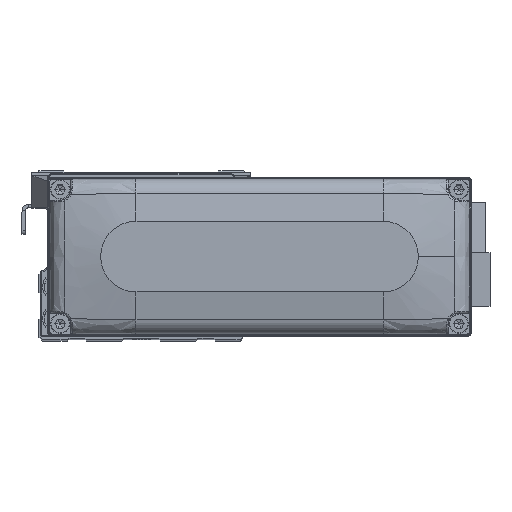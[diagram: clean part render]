
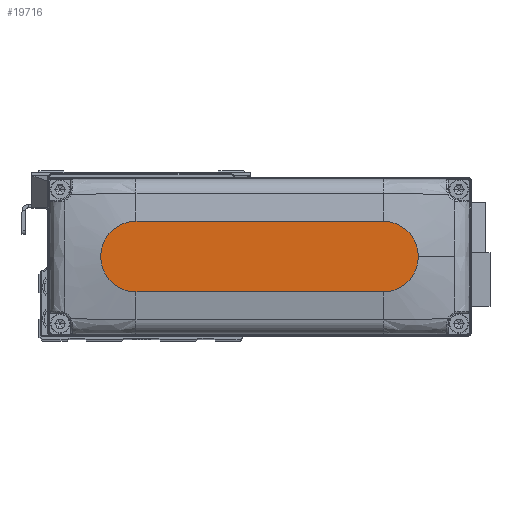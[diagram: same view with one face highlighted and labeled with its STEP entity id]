
A CAD part, top view. The second image highlights one B-rep face of the part: STEP entity #19716.
In plain terms, the highlighted planar face has unit normal (0, 0, 1).
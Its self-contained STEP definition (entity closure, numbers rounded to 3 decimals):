
#1108 = DIRECTION ( 'NONE',  ( 1., 0., 0. ) ) ;
#2077 = ORIENTED_EDGE ( 'NONE', *, *, #29608, .T. ) ;
#2131 = PLANE ( 'NONE',  #32339 ) ;
#2260 = DIRECTION ( 'NONE',  ( -1., 0., 0. ) ) ;
#4636 = VECTOR ( 'NONE', #35414, 1000. ) ;
#5735 = ORIENTED_EDGE ( 'NONE', *, *, #19963, .T. ) ;
#7713 = VECTOR ( 'NONE', #2260, 1000. ) ;
#8516 = CARTESIAN_POINT ( 'NONE',  ( -35., 0., 28. ) ) ;
#10204 = LINE ( 'NONE', #22792, #4636 ) ;
#10348 = DIRECTION ( 'NONE',  ( 0., 0., 1. ) ) ;
#11504 = VERTEX_POINT ( 'NONE', #28295 ) ;
#12567 = AXIS2_PLACEMENT_3D ( 'NONE', #8516, #21080, #33703 ) ;
#12801 = CARTESIAN_POINT ( 'NONE',  ( -35., 10., 28. ) ) ;
#13426 = AXIS2_PLACEMENT_3D ( 'NONE', #16810, #29414, #1108 ) ;
#14740 = CARTESIAN_POINT ( 'NONE',  ( 0., 0., 28. ) ) ;
#16810 = CARTESIAN_POINT ( 'NONE',  ( 35., 0., 28. ) ) ;
#17945 = LINE ( 'NONE', #30568, #7713 ) ;
#19091 = EDGE_CURVE ( 'NONE', #11504, #38328, #38239, .T. ) ;
#19716 = ADVANCED_FACE ( 'NONE', ( #30447 ), #2131, .T. ) ;
#19963 = EDGE_CURVE ( 'NONE', #24898, #11504, #10204, .T. ) ;
#20186 = EDGE_CURVE ( 'NONE', #31632, #24898, #30372, .T. ) ;
#21080 = DIRECTION ( 'NONE',  ( 0., 0., 1. ) ) ;
#22792 = CARTESIAN_POINT ( 'NONE',  ( -35., -10., 28. ) ) ;
#22929 = DIRECTION ( 'NONE',  ( 1., 0., 0. ) ) ;
#23174 = CARTESIAN_POINT ( 'NONE',  ( 45., 0., 28. ) ) ;
#24553 = CARTESIAN_POINT ( 'NONE',  ( 35., 10., 28. ) ) ;
#24898 = VERTEX_POINT ( 'NONE', #27245 ) ;
#24935 = EDGE_CURVE ( 'NONE', #32997, #31632, #17945, .T. ) ;
#25690 = AXIS2_PLACEMENT_3D ( 'NONE', #38660, #10348, #22929 ) ;
#27184 = EDGE_LOOP ( 'NONE', ( #32471, #32858, #5735, #36411, #2077 ) ) ;
#27245 = CARTESIAN_POINT ( 'NONE',  ( -35., -10., 28. ) ) ;
#27360 = DIRECTION ( 'NONE',  ( 0., 0., 1. ) ) ;
#28295 = CARTESIAN_POINT ( 'NONE',  ( 35., -10., 28. ) ) ;
#29414 = DIRECTION ( 'NONE',  ( 0., 0., 1. ) ) ;
#29608 = EDGE_CURVE ( 'NONE', #38328, #32997, #31246, .T. ) ;
#30372 = CIRCLE ( 'NONE', #12567, 10. ) ;
#30447 = FACE_OUTER_BOUND ( 'NONE', #27184, .T. ) ;
#30568 = CARTESIAN_POINT ( 'NONE',  ( -35., 10., 28. ) ) ;
#31246 = CIRCLE ( 'NONE', #13426, 10. ) ;
#31632 = VERTEX_POINT ( 'NONE', #12801 ) ;
#32339 = AXIS2_PLACEMENT_3D ( 'NONE', #14740, #27360, #39979 ) ;
#32471 = ORIENTED_EDGE ( 'NONE', *, *, #24935, .T. ) ;
#32858 = ORIENTED_EDGE ( 'NONE', *, *, #20186, .T. ) ;
#32997 = VERTEX_POINT ( 'NONE', #24553 ) ;
#33703 = DIRECTION ( 'NONE',  ( 1., 0., 0. ) ) ;
#35414 = DIRECTION ( 'NONE',  ( 1., 0., 0. ) ) ;
#36411 = ORIENTED_EDGE ( 'NONE', *, *, #19091, .T. ) ;
#38239 = CIRCLE ( 'NONE', #25690, 10. ) ;
#38328 = VERTEX_POINT ( 'NONE', #23174 ) ;
#38660 = CARTESIAN_POINT ( 'NONE',  ( 35., 0., 28. ) ) ;
#39979 = DIRECTION ( 'NONE',  ( 1., 0., 0. ) ) ;
